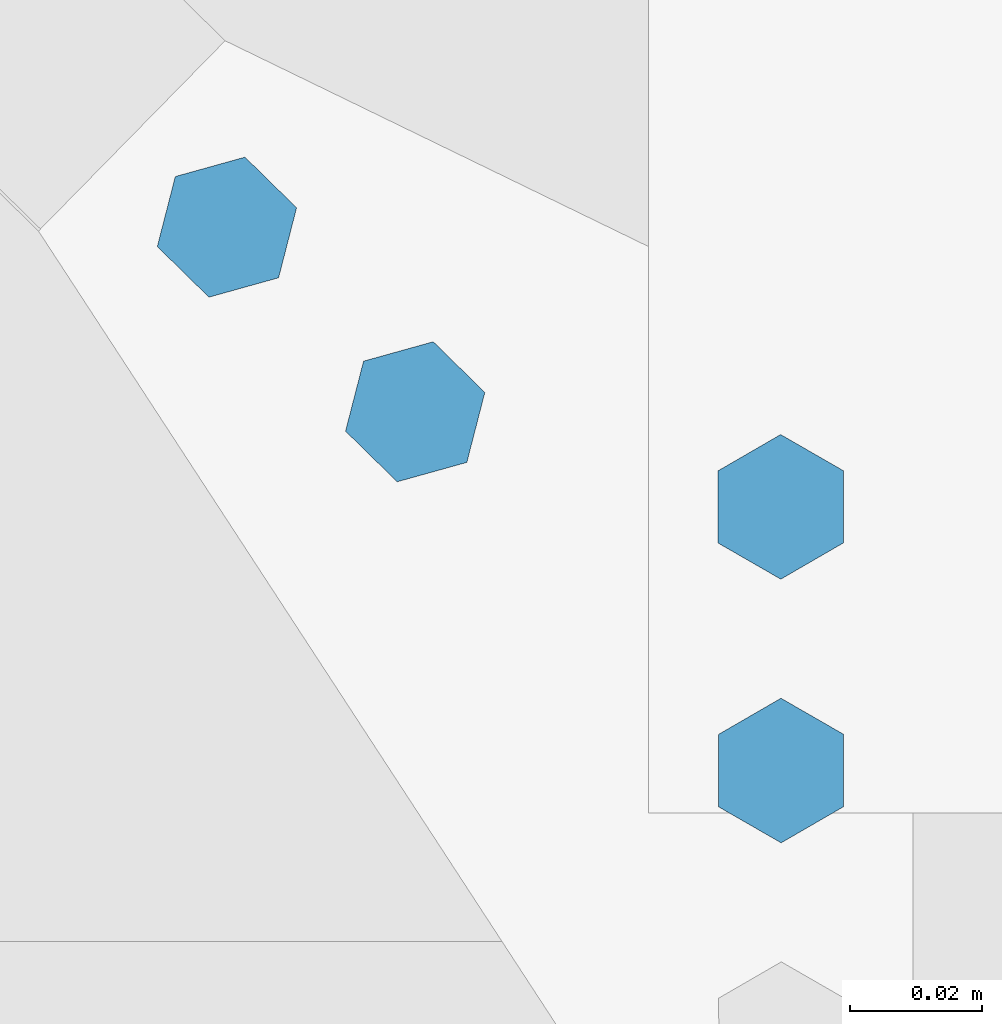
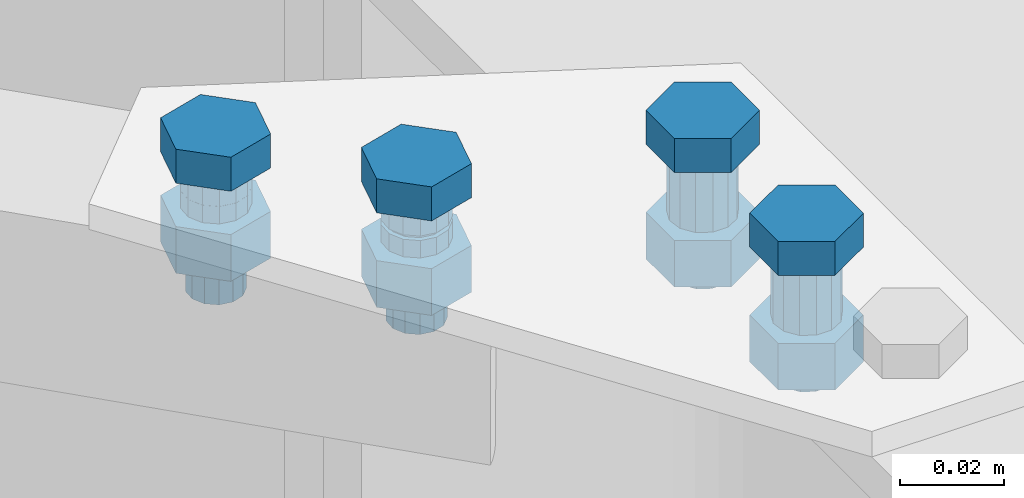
# One storey, part 17 of 18: 4 mechanical fasteners.
"""IFC2X3 building model written with IfcOpenShell, lengths in millimetres."""

from ifc_helpers import new_model, si_unit, frame, origin_with_axes, place, context, subcontext, project, spatial, faceted_brep, source, transform, mapped, type_object, element, save


model = new_model("IFC2X3")

# Units and contexts
model_context = context("Model", 3, precision=1e-05, world=origin_with_axes())
body_context = subcontext(model_context, "Body", "Model", "MODEL_VIEW")
ifc_project = project(units=[si_unit("LENGTHUNIT", "METRE", prefix="MILLI"), si_unit("AREAUNIT", "SQUARE_METRE"), si_unit("VOLUMEUNIT", "CUBIC_METRE"), si_unit("MASSUNIT", "GRAM", prefix="KILO"), si_unit("TIMEUNIT", "SECOND"), si_unit("PLANEANGLEUNIT", "RADIAN"), si_unit("SOLIDANGLEUNIT", "STERADIAN"), si_unit("THERMODYNAMICTEMPERATUREUNIT", "DEGREE_CELSIUS"), si_unit("LUMINOUSINTENSITYUNIT", "LUMEN")], contexts=[model_context])

# Site, building, storey
site_placement = place(None, origin_with_axes())
site = spatial("IfcSite", under=ifc_project, at=site_placement, Name="Undefined", CompositionType="ELEMENT")
building_placement = place(site_placement, origin_with_axes())
building = spatial("IfcBuilding", under=site, at=building_placement, Name="Undefined", CompositionType="ELEMENT")
storey_placement = place(building_placement, origin_with_axes())
storey = spatial("IfcBuildingStorey", under=building, at=storey_placement, Name="Undefined", CompositionType="ELEMENT", Elevation=0.0)

# Mechanical fasteners
mechanical_fastener_type = type_object("IfcMechanicalFastenerType", Name="Bolt assembly")
shared_shape_1 = source(origin_with_axes(), body_context, "Body", "Brep", [
    faceted_brep([(10.96965511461, -14.0, 0.0), (5.484827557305, -14.0, 9.50000000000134), (-5.484827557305, -14.0, 9.50000000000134), (-10.96965511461, -14.0, 0.0), (-5.484827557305, -14.0, -9.50000000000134), (5.484827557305, -14.0, -9.50000000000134), (5.484827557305, -6.0, -9.50000000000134), (-5.484827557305, -6.0, -9.50000000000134), (-10.96965511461, -6.0, 0.0), (-5.484827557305, -6.0, 9.50000000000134), (5.484827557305, -6.0, 9.50000000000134), (10.96965511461, -6.0, 0.0), (6.0, -6.0, 0.0), (5.31273615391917, -6.0, 2.78833903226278), (3.40838848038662, -6.0, 4.93790319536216), (0.723220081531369, -6.0, 5.95625324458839), (-2.12762932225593, -6.0, 5.61009745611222), (-4.49106448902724, -6.0, 3.97873594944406), (-5.82565090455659, -6.0, 1.43589398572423), (-5.82565090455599, -6.0, -1.43589398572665), (-4.49106448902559, -6.0, -3.97873594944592), (-2.12762932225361, -6.0, -5.6100974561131), (0.723220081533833, -6.0, -5.95625324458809), (3.40838848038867, -6.0, -4.93790319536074), (3.40838848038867, 24.0, -4.93790319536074), (0.723220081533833, 24.0, -5.95625324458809), (-2.12762932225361, 24.0, -5.6100974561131), (-4.49106448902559, 24.0, -3.97873594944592), (-5.82565090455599, 24.0, -1.43589398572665), (-5.82565090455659, 24.0, 1.43589398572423), (-4.49106448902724, 24.0, 3.97873594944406), (-2.12762932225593, 24.0, 5.61009745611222), (0.723220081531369, 24.0, 5.95625324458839), (3.40838848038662, 24.0, 4.93790319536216), (5.31273615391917, 24.0, 2.78833903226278), (6.0, 24.0, 0.0), (10.96965511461, 5.26725495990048, 0.0), (5.484827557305, 5.26725495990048, 9.50000000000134), (-5.484827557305, 5.26725495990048, 9.50000000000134), (-10.96965511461, 5.26725495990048, 0.0), (-5.484827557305, 5.26725495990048, -9.50000000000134), (5.484827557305, 5.26725495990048, -9.50000000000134), (5.484827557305, 16.2672549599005, -9.50000000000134), (-5.484827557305, 16.2672549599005, -9.50000000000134), (-10.96965511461, 16.2672549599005, 0.0), (-5.484827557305, 16.2672549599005, 9.50000000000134), (5.484827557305, 16.2672549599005, 9.50000000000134), (10.96965511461, 16.2672549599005, 0.0)], [[[0, 1, 2, 3, 4, 5]], [[6, 7, 8, 9, 10, 11]], [[0, 11, 10, 1]], [[1, 10, 9, 2]], [[2, 9, 8, 3]], [[3, 8, 7, 4]], [[4, 7, 6, 5]], [[5, 6, 11, 0]], [[12, 13, 14, 15, 16, 17, 18, 19, 20, 21, 22, 23]], [[24, 25, 26, 27, 28, 29, 30, 31, 32, 33, 34, 35]], [[12, 35, 34, 13]], [[13, 34, 33, 14]], [[14, 33, 32, 15]], [[15, 32, 31, 16]], [[16, 31, 30, 17]], [[17, 30, 29, 18]], [[18, 29, 28, 19]], [[19, 28, 27, 20]], [[20, 27, 26, 21]], [[21, 26, 25, 22]], [[22, 25, 24, 23]], [[23, 24, 35, 12]], [[36, 37, 38, 39, 40, 41]], [[42, 43, 44, 45, 46, 47]], [[36, 47, 46, 37]], [[37, 46, 45, 38]], [[38, 45, 44, 39]], [[39, 44, 43, 40]], [[40, 43, 42, 41]], [[41, 42, 47, 36]]]),
    faceted_brep([(7.0, -5.9, 0.0), (6.19819217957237, -5.9, 3.25306220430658), (3.97645322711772, -5.9, 5.76088706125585), (0.843756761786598, -5.9, 6.94896211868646), (-2.48223420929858, -5.9, 6.54511369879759), (-5.23957523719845, -5.9, 4.64185860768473), (-6.79659272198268, -5.9, 1.67520965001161), (-6.79659272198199, -5.9, -1.67520965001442), (-5.23957523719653, -5.9, -4.6418586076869), (-2.48223420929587, -5.9, -6.54511369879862), (0.843756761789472, -5.9, -6.94896211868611), (3.97645322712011, -5.9, -5.7608870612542), (3.97645322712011, 0.100000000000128, -5.7608870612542), (0.843756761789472, 0.100000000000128, -6.94896211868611), (-2.48223420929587, 0.100000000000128, -6.54511369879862), (-5.23957523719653, 0.100000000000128, -4.6418586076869), (-6.79659272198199, 0.100000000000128, -1.67520965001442), (-6.79659272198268, 0.100000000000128, 1.67520965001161), (-5.23957523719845, 0.100000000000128, 4.64185860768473), (-2.48223420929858, 0.100000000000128, 6.54511369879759), (0.843756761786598, 0.100000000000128, 6.94896211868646), (3.97645322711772, 0.100000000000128, 5.76088706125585), (6.19819217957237, 0.100000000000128, 3.25306220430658), (7.0, 0.100000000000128, 0.0), (7.0, 1.16566551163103, 0.0), (6.19819217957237, 1.16566551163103, 3.25306220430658), (3.97645322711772, 1.16566551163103, 5.76088706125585), (0.843756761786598, 1.16566551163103, 6.94896211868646), (-2.48223420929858, 1.16566551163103, 6.54511369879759), (-5.23957523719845, 1.16566551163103, 4.64185860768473), (-6.79659272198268, 1.16566551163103, 1.67520965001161), (-6.79659272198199, 1.16566551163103, -1.67520965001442), (-5.23957523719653, 1.16566551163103, -4.6418586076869), (-2.48223420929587, 1.16566551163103, -6.54511369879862), (0.843756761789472, 1.16566551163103, -6.94896211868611), (3.97645322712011, 1.16566551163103, -5.7608870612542), (3.97645322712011, 5.26725495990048, -5.7608870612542), (0.843756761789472, 5.26725495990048, -6.94896211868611), (-2.48223420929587, 5.26725495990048, -6.54511369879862), (-5.23957523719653, 5.26725495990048, -4.6418586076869), (-6.79659272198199, 5.26725495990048, -1.67520965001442), (-6.79659272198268, 5.26725495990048, 1.67520965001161), (-5.23957523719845, 5.26725495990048, 4.64185860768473), (-2.48223420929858, 5.26725495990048, 6.54511369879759), (0.843756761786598, 5.26725495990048, 6.94896211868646), (3.97645322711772, 5.26725495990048, 5.76088706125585), (6.19819217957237, 5.26725495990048, 3.25306220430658), (7.0, 5.26725495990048, 0.0)], [[[0, 1, 2, 3, 4, 5, 6, 7, 8, 9, 10, 11]], [[12, 13, 14, 15, 16, 17, 18, 19, 20, 21, 22, 23]], [[0, 23, 22, 1]], [[1, 22, 21, 2]], [[2, 21, 20, 3]], [[3, 20, 19, 4]], [[4, 19, 18, 5]], [[5, 18, 17, 6]], [[6, 17, 16, 7]], [[7, 16, 15, 8]], [[8, 15, 14, 9]], [[9, 14, 13, 10]], [[10, 13, 12, 11]], [[11, 12, 23, 0]], [[24, 25, 26, 27, 28, 29, 30, 31, 32, 33, 34, 35]], [[36, 37, 38, 39, 40, 41, 42, 43, 44, 45, 46, 47]], [[24, 47, 46, 25]], [[25, 46, 45, 26]], [[26, 45, 44, 27]], [[27, 44, 43, 28]], [[28, 43, 42, 29]], [[29, 42, 41, 30]], [[30, 41, 40, 31]], [[31, 40, 39, 32]], [[32, 39, 38, 33]], [[33, 38, 37, 34]], [[34, 37, 36, 35]], [[35, 36, 47, 24]]]),
])
mechanical_fastener_1_placement = place(storey_placement, frame((-130.390885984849, 127.866080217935, 5513.99941189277), z_axis=(-0.700159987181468, -0.713985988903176, 6.16637484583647e-13), x_axis=(-0.713985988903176, 0.700159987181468, -5.45696821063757e-13)))
element("IfcMechanicalFastener", 1, at=mechanical_fastener_1_placement, inside=storey, type_object=mechanical_fastener_type, Name="Bolt assembly", NominalDiameter=12.0, NominalLength=30.0, context=body_context, shape_type="MappedRepresentation", body=[
    mapped(shared_shape_1, transform((0.0, 0.0, 0.0))),
])
shared_shape_2 = source(origin_with_axes(), body_context, "Body", "Brep", [
    faceted_brep([(10.96965511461, -14.0, 0.0), (5.484827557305, -14.0, 9.50000000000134), (-5.484827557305, -14.0, 9.50000000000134), (-10.96965511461, -14.0, 0.0), (-5.484827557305, -14.0, -9.50000000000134), (5.484827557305, -14.0, -9.50000000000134), (5.484827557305, -6.0, -9.50000000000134), (-5.484827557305, -6.0, -9.50000000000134), (-10.96965511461, -6.0, 0.0), (-5.484827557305, -6.0, 9.50000000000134), (5.484827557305, -6.0, 9.50000000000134), (10.96965511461, -6.0, 0.0), (6.0, -6.0, 0.0), (5.31273615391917, -6.0, 2.78833903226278), (3.40838848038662, -6.0, 4.93790319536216), (0.723220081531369, -6.0, 5.95625324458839), (-2.12762932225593, -6.0, 5.61009745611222), (-4.49106448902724, -6.0, 3.97873594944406), (-5.82565090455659, -6.0, 1.43589398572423), (-5.82565090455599, -6.0, -1.43589398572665), (-4.49106448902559, -6.0, -3.97873594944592), (-2.12762932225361, -6.0, -5.6100974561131), (0.723220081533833, -6.0, -5.95625324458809), (3.40838848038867, -6.0, -4.93790319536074), (3.40838848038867, 24.0, -4.93790319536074), (0.723220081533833, 24.0, -5.95625324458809), (-2.12762932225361, 24.0, -5.6100974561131), (-4.49106448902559, 24.0, -3.97873594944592), (-5.82565090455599, 24.0, -1.43589398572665), (-5.82565090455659, 24.0, 1.43589398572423), (-4.49106448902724, 24.0, 3.97873594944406), (-2.12762932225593, 24.0, 5.61009745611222), (0.723220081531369, 24.0, 5.95625324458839), (3.40838848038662, 24.0, 4.93790319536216), (5.31273615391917, 24.0, 2.78833903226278), (6.0, 24.0, 0.0), (10.96965511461, 4.23029866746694, 0.0), (5.484827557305, 4.23029866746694, 9.50000000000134), (-5.484827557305, 4.23029866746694, 9.50000000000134), (-10.96965511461, 4.23029866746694, 0.0), (-5.484827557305, 4.23029866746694, -9.50000000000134), (5.484827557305, 4.23029866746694, -9.50000000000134), (5.484827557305, 15.2302986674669, -9.50000000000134), (-5.484827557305, 15.2302986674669, -9.50000000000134), (-10.96965511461, 15.2302986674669, 0.0), (-5.484827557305, 15.2302986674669, 9.50000000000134), (5.484827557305, 15.2302986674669, 9.50000000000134), (10.96965511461, 15.2302986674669, 0.0)], [[[0, 1, 2, 3, 4, 5]], [[6, 7, 8, 9, 10, 11]], [[0, 11, 10, 1]], [[1, 10, 9, 2]], [[2, 9, 8, 3]], [[3, 8, 7, 4]], [[4, 7, 6, 5]], [[5, 6, 11, 0]], [[12, 13, 14, 15, 16, 17, 18, 19, 20, 21, 22, 23]], [[24, 25, 26, 27, 28, 29, 30, 31, 32, 33, 34, 35]], [[12, 35, 34, 13]], [[13, 34, 33, 14]], [[14, 33, 32, 15]], [[15, 32, 31, 16]], [[16, 31, 30, 17]], [[17, 30, 29, 18]], [[18, 29, 28, 19]], [[19, 28, 27, 20]], [[20, 27, 26, 21]], [[21, 26, 25, 22]], [[22, 25, 24, 23]], [[23, 24, 35, 12]], [[36, 37, 38, 39, 40, 41]], [[42, 43, 44, 45, 46, 47]], [[36, 47, 46, 37]], [[37, 46, 45, 38]], [[38, 45, 44, 39]], [[39, 44, 43, 40]], [[40, 43, 42, 41]], [[41, 42, 47, 36]]]),
    faceted_brep([(7.0, -5.9, 0.0), (6.19819217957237, -5.9, 3.25306220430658), (3.97645322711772, -5.9, 5.76088706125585), (0.843756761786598, -5.9, 6.94896211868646), (-2.48223420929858, -5.9, 6.54511369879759), (-5.23957523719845, -5.9, 4.64185860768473), (-6.79659272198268, -5.9, 1.67520965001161), (-6.79659272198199, -5.9, -1.67520965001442), (-5.23957523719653, -5.9, -4.6418586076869), (-2.48223420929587, -5.9, -6.54511369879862), (0.843756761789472, -5.9, -6.94896211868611), (3.97645322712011, -5.9, -5.7608870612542), (3.97645322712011, 0.100000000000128, -5.7608870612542), (0.843756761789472, 0.100000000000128, -6.94896211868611), (-2.48223420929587, 0.100000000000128, -6.54511369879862), (-5.23957523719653, 0.100000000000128, -4.6418586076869), (-6.79659272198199, 0.100000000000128, -1.67520965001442), (-6.79659272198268, 0.100000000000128, 1.67520965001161), (-5.23957523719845, 0.100000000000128, 4.64185860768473), (-2.48223420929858, 0.100000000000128, 6.54511369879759), (0.843756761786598, 0.100000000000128, 6.94896211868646), (3.97645322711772, 0.100000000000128, 5.76088706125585), (6.19819217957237, 0.100000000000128, 3.25306220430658), (7.0, 0.100000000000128, 0.0), (7.0, 0.128709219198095, 0.0), (6.19819217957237, 0.128709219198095, 3.25306220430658), (3.97645322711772, 0.128709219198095, 5.76088706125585), (0.843756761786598, 0.128709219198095, 6.94896211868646), (-2.48223420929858, 0.128709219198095, 6.54511369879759), (-5.23957523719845, 0.128709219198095, 4.64185860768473), (-6.79659272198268, 0.128709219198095, 1.67520965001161), (-6.79659272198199, 0.128709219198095, -1.67520965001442), (-5.23957523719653, 0.128709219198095, -4.6418586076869), (-2.48223420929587, 0.128709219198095, -6.54511369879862), (0.843756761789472, 0.128709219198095, -6.94896211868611), (3.97645322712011, 0.128709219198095, -5.7608870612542), (3.97645322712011, 4.23029866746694, -5.7608870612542), (0.843756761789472, 4.23029866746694, -6.94896211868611), (-2.48223420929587, 4.23029866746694, -6.54511369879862), (-5.23957523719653, 4.23029866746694, -4.6418586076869), (-6.79659272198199, 4.23029866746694, -1.67520965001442), (-6.79659272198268, 4.23029866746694, 1.67520965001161), (-5.23957523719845, 4.23029866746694, 4.64185860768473), (-2.48223420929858, 4.23029866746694, 6.54511369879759), (0.843756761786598, 4.23029866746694, 6.94896211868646), (3.97645322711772, 4.23029866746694, 5.76088706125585), (6.19819217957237, 4.23029866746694, 3.25306220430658), (7.0, 4.23029866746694, 0.0)], [[[0, 1, 2, 3, 4, 5, 6, 7, 8, 9, 10, 11]], [[12, 13, 14, 15, 16, 17, 18, 19, 20, 21, 22, 23]], [[0, 23, 22, 1]], [[1, 22, 21, 2]], [[2, 21, 20, 3]], [[3, 20, 19, 4]], [[4, 19, 18, 5]], [[5, 18, 17, 6]], [[6, 17, 16, 7]], [[7, 16, 15, 8]], [[8, 15, 14, 9]], [[9, 14, 13, 10]], [[10, 13, 12, 11]], [[11, 12, 23, 0]], [[24, 25, 26, 27, 28, 29, 30, 31, 32, 33, 34, 35]], [[36, 37, 38, 39, 40, 41, 42, 43, 44, 45, 46, 47]], [[24, 47, 46, 25]], [[25, 46, 45, 26]], [[26, 45, 44, 27]], [[27, 44, 43, 28]], [[28, 43, 42, 29]], [[29, 42, 41, 30]], [[30, 41, 40, 31]], [[31, 40, 39, 32]], [[32, 39, 38, 33]], [[33, 38, 37, 34]], [[34, 37, 36, 35]], [[35, 36, 47, 24]]]),
])
mechanical_fastener_2_placement = place(storey_placement, frame((-158.950325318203, 155.872479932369, 5513.99941189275), z_axis=(-0.700159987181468, -0.713985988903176, 6.16637484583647e-13), x_axis=(-0.713985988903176, 0.700159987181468, -5.45696821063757e-13)))
element("IfcMechanicalFastener", 2, at=mechanical_fastener_2_placement, inside=storey, type_object=mechanical_fastener_type, Name="Bolt assembly", NominalDiameter=12.0, NominalLength=30.0, context=body_context, shape_type="MappedRepresentation", body=[
    mapped(shared_shape_2, transform((0.0, 0.0, 0.0))),
])
shared_shape_3 = source(origin_with_axes(), body_context, "Body", "Brep", [
    faceted_brep([(10.96965511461, -14.0, 0.0), (5.484827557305, -14.0, 9.50000000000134), (-5.484827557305, -14.0, 9.50000000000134), (-10.96965511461, -14.0, 0.0), (-5.484827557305, -14.0, -9.50000000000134), (5.484827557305, -14.0, -9.50000000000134), (5.484827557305, -6.0, -9.50000000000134), (-5.484827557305, -6.0, -9.50000000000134), (-10.96965511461, -6.0, 0.0), (-5.484827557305, -6.0, 9.50000000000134), (5.484827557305, -6.0, 9.50000000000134), (10.96965511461, -6.0, 0.0), (6.0, -6.0, 0.0), (5.31273615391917, -6.0, 2.78833903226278), (3.40838848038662, -6.0, 4.93790319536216), (0.723220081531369, -6.0, 5.95625324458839), (-2.12762932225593, -6.0, 5.61009745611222), (-4.49106448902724, -6.0, 3.97873594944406), (-5.82565090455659, -6.0, 1.43589398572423), (-5.82565090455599, -6.0, -1.43589398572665), (-4.49106448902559, -6.0, -3.97873594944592), (-2.12762932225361, -6.0, -5.6100974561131), (0.723220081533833, -6.0, -5.95625324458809), (3.40838848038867, -6.0, -4.93790319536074), (3.40838848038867, 24.0, -4.93790319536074), (0.723220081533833, 24.0, -5.95625324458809), (-2.12762932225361, 24.0, -5.6100974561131), (-4.49106448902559, 24.0, -3.97873594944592), (-5.82565090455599, 24.0, -1.43589398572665), (-5.82565090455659, 24.0, 1.43589398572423), (-4.49106448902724, 24.0, 3.97873594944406), (-2.12762932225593, 24.0, 5.61009745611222), (0.723220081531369, 24.0, 5.95625324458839), (3.40838848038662, 24.0, 4.93790319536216), (5.31273615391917, 24.0, 2.78833903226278), (6.0, 24.0, 0.0), (10.96965511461, 9.99999999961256, 0.0), (5.484827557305, 9.99999999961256, 9.50000000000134), (-5.484827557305, 9.99999999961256, 9.50000000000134), (-10.96965511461, 9.99999999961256, 0.0), (-5.484827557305, 9.99999999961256, -9.50000000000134), (5.484827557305, 9.99999999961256, -9.50000000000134), (5.484827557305, 20.9999999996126, -9.50000000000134), (-5.484827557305, 20.9999999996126, -9.50000000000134), (-10.96965511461, 20.9999999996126, 0.0), (-5.484827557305, 20.9999999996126, 9.50000000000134), (5.484827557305, 20.9999999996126, 9.50000000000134), (10.96965511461, 20.9999999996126, 0.0)], [[[0, 1, 2, 3, 4, 5]], [[6, 7, 8, 9, 10, 11]], [[0, 11, 10, 1]], [[1, 10, 9, 2]], [[2, 9, 8, 3]], [[3, 8, 7, 4]], [[4, 7, 6, 5]], [[5, 6, 11, 0]], [[12, 13, 14, 15, 16, 17, 18, 19, 20, 21, 22, 23]], [[24, 25, 26, 27, 28, 29, 30, 31, 32, 33, 34, 35]], [[12, 35, 34, 13]], [[13, 34, 33, 14]], [[14, 33, 32, 15]], [[15, 32, 31, 16]], [[16, 31, 30, 17]], [[17, 30, 29, 18]], [[18, 29, 28, 19]], [[19, 28, 27, 20]], [[20, 27, 26, 21]], [[21, 26, 25, 22]], [[22, 25, 24, 23]], [[23, 24, 35, 12]], [[36, 37, 38, 39, 40, 41]], [[42, 43, 44, 45, 46, 47]], [[36, 47, 46, 37]], [[37, 46, 45, 38]], [[38, 45, 44, 39]], [[39, 44, 43, 40]], [[40, 43, 42, 41]], [[41, 42, 47, 36]]]),
    faceted_brep([(7.0, -5.9, 0.0), (6.19819217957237, -5.9, 3.25306220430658), (3.97645322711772, -5.9, 5.76088706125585), (0.843756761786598, -5.9, 6.94896211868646), (-2.48223420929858, -5.9, 6.54511369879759), (-5.23957523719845, -5.9, 4.64185860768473), (-6.79659272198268, -5.9, 1.67520965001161), (-6.79659272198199, -5.9, -1.67520965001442), (-5.23957523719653, -5.9, -4.6418586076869), (-2.48223420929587, -5.9, -6.54511369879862), (0.843756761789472, -5.9, -6.94896211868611), (3.97645322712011, -5.9, -5.7608870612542), (3.97645322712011, 0.100000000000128, -5.7608870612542), (0.843756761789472, 0.100000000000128, -6.94896211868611), (-2.48223420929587, 0.100000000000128, -6.54511369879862), (-5.23957523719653, 0.100000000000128, -4.6418586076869), (-6.79659272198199, 0.100000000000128, -1.67520965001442), (-6.79659272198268, 0.100000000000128, 1.67520965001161), (-5.23957523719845, 0.100000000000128, 4.64185860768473), (-2.48223420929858, 0.100000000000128, 6.54511369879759), (0.843756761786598, 0.100000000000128, 6.94896211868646), (3.97645322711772, 0.100000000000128, 5.76088706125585), (6.19819217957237, 0.100000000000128, 3.25306220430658), (7.0, 0.100000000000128, 0.0), (7.0, -0.100000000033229, 0.0), (6.19819217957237, -0.100000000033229, 3.25306220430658), (3.97645322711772, -0.100000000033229, 5.76088706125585), (0.843756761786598, -0.100000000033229, 6.94896211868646), (-2.48223420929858, -0.100000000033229, 6.54511369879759), (-5.23957523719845, -0.100000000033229, 4.64185860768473), (-6.79659272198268, -0.100000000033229, 1.67520965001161), (-6.79659272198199, -0.100000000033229, -1.67520965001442), (-5.23957523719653, -0.100000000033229, -4.6418586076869), (-2.48223420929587, -0.100000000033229, -6.54511369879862), (0.843756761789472, -0.100000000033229, -6.94896211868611), (3.97645322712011, -0.100000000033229, -5.7608870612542), (3.97645322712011, 9.99999999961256, -5.7608870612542), (0.843756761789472, 9.99999999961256, -6.94896211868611), (-2.48223420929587, 9.99999999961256, -6.54511369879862), (-5.23957523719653, 9.99999999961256, -4.6418586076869), (-6.79659272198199, 9.99999999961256, -1.67520965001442), (-6.79659272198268, 9.99999999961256, 1.67520965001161), (-5.23957523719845, 9.99999999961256, 4.64185860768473), (-2.48223420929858, 9.99999999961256, 6.54511369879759), (0.843756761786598, 9.99999999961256, 6.94896211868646), (3.97645322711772, 9.99999999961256, 5.76088706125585), (6.19819217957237, 9.99999999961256, 3.25306220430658), (7.0, 9.99999999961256, 0.0)], [[[0, 1, 2, 3, 4, 5, 6, 7, 8, 9, 10, 11]], [[12, 13, 14, 15, 16, 17, 18, 19, 20, 21, 22, 23]], [[0, 23, 22, 1]], [[1, 22, 21, 2]], [[2, 21, 20, 3]], [[3, 20, 19, 4]], [[4, 19, 18, 5]], [[5, 18, 17, 6]], [[6, 17, 16, 7]], [[7, 16, 15, 8]], [[8, 15, 14, 9]], [[9, 14, 13, 10]], [[10, 13, 12, 11]], [[11, 12, 23, 0]], [[24, 25, 26, 27, 28, 29, 30, 31, 32, 33, 34, 35]], [[36, 37, 38, 39, 40, 41, 42, 43, 44, 45, 46, 47]], [[24, 47, 46, 25]], [[25, 46, 45, 26]], [[26, 45, 44, 27]], [[27, 44, 43, 28]], [[28, 43, 42, 29]], [[29, 42, 41, 30]], [[30, 41, 40, 31]], [[31, 40, 39, 32]], [[32, 39, 38, 33]], [[33, 38, 37, 34]], [[34, 37, 36, 35]], [[35, 36, 47, 24]]]),
])
mechanical_fastener_3_placement = place(storey_placement, frame((-74.9397438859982, 113.438886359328, 5513.99941189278), z_axis=(-0.999999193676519, -0.00126990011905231, 4.27462549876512e-14), x_axis=(-0.00126990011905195, 0.999999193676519, -8.18545231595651e-13)))
element("IfcMechanicalFastener", 3, at=mechanical_fastener_3_placement, inside=storey, type_object=mechanical_fastener_type, Name="Bolt assembly", NominalDiameter=12.0, NominalLength=40.0, context=body_context, shape_type="MappedRepresentation", body=[
    mapped(shared_shape_3, transform((0.0, 0.0, 0.0))),
])
shared_shape_4 = source(origin_with_axes(), body_context, "Body", "Brep", [
    faceted_brep([(10.96965511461, -14.0, 0.0), (5.484827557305, -14.0, 9.50000000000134), (-5.484827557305, -14.0, 9.50000000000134), (-10.96965511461, -14.0, 0.0), (-5.484827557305, -14.0, -9.50000000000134), (5.484827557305, -14.0, -9.50000000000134), (5.484827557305, -6.0, -9.50000000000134), (-5.484827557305, -6.0, -9.50000000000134), (-10.96965511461, -6.0, 0.0), (-5.484827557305, -6.0, 9.50000000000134), (5.484827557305, -6.0, 9.50000000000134), (10.96965511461, -6.0, 0.0), (6.0, -6.0, 0.0), (5.31273615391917, -6.0, 2.78833903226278), (3.40838848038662, -6.0, 4.93790319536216), (0.723220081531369, -6.0, 5.95625324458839), (-2.12762932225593, -6.0, 5.61009745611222), (-4.49106448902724, -6.0, 3.97873594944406), (-5.82565090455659, -6.0, 1.43589398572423), (-5.82565090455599, -6.0, -1.43589398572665), (-4.49106448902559, -6.0, -3.97873594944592), (-2.12762932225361, -6.0, -5.6100974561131), (0.723220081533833, -6.0, -5.95625324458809), (3.40838848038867, -6.0, -4.93790319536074), (3.40838848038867, 24.0, -4.93790319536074), (0.723220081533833, 24.0, -5.95625324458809), (-2.12762932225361, 24.0, -5.6100974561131), (-4.49106448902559, 24.0, -3.97873594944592), (-5.82565090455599, 24.0, -1.43589398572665), (-5.82565090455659, 24.0, 1.43589398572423), (-4.49106448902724, 24.0, 3.97873594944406), (-2.12762932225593, 24.0, 5.61009745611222), (0.723220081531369, 24.0, 5.95625324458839), (3.40838848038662, 24.0, 4.93790319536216), (5.31273615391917, 24.0, 2.78833903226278), (6.0, 24.0, 0.0), (10.96965511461, 9.99999999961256, 0.0), (5.484827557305, 9.99999999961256, 9.50000000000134), (-5.484827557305, 9.99999999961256, 9.50000000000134), (-10.96965511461, 9.99999999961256, 0.0), (-5.484827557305, 9.99999999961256, -9.50000000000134), (5.484827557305, 9.99999999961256, -9.50000000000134), (5.484827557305, 20.9999999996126, -9.50000000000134), (-5.484827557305, 20.9999999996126, -9.50000000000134), (-10.96965511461, 20.9999999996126, 0.0), (-5.484827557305, 20.9999999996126, 9.50000000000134), (5.484827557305, 20.9999999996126, 9.50000000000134), (10.96965511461, 20.9999999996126, 0.0)], [[[0, 1, 2, 3, 4, 5]], [[6, 7, 8, 9, 10, 11]], [[0, 11, 10, 1]], [[1, 10, 9, 2]], [[2, 9, 8, 3]], [[3, 8, 7, 4]], [[4, 7, 6, 5]], [[5, 6, 11, 0]], [[12, 13, 14, 15, 16, 17, 18, 19, 20, 21, 22, 23]], [[24, 25, 26, 27, 28, 29, 30, 31, 32, 33, 34, 35]], [[12, 35, 34, 13]], [[13, 34, 33, 14]], [[14, 33, 32, 15]], [[15, 32, 31, 16]], [[16, 31, 30, 17]], [[17, 30, 29, 18]], [[18, 29, 28, 19]], [[19, 28, 27, 20]], [[20, 27, 26, 21]], [[21, 26, 25, 22]], [[22, 25, 24, 23]], [[23, 24, 35, 12]], [[36, 37, 38, 39, 40, 41]], [[42, 43, 44, 45, 46, 47]], [[36, 47, 46, 37]], [[37, 46, 45, 38]], [[38, 45, 44, 39]], [[39, 44, 43, 40]], [[40, 43, 42, 41]], [[41, 42, 47, 36]]]),
    faceted_brep([(7.0, -0.100000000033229, 0.0), (6.19819217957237, -0.100000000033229, 3.25306220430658), (3.97645322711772, -0.100000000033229, 5.76088706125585), (0.843756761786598, -0.100000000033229, 6.94896211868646), (-2.48223420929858, -0.100000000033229, 6.54511369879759), (-5.23957523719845, -0.100000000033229, 4.64185860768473), (-6.79659272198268, -0.100000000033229, 1.67520965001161), (-6.79659272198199, -0.100000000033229, -1.67520965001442), (-5.23957523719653, -0.100000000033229, -4.6418586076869), (-2.48223420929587, -0.100000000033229, -6.54511369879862), (0.843756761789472, -0.100000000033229, -6.94896211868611), (3.97645322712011, -0.100000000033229, -5.7608870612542), (3.97645322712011, 9.99999999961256, -5.7608870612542), (0.843756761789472, 9.99999999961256, -6.94896211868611), (-2.48223420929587, 9.99999999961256, -6.54511369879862), (-5.23957523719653, 9.99999999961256, -4.6418586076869), (-6.79659272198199, 9.99999999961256, -1.67520965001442), (-6.79659272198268, 9.99999999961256, 1.67520965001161), (-5.23957523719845, 9.99999999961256, 4.64185860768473), (-2.48223420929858, 9.99999999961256, 6.54511369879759), (0.843756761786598, 9.99999999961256, 6.94896211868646), (3.97645322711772, 9.99999999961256, 5.76088706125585), (6.19819217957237, 9.99999999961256, 3.25306220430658), (7.0, 9.99999999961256, 0.0), (7.0, -5.9, 0.0), (6.19819217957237, -5.9, 3.25306220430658), (3.97645322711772, -5.9, 5.76088706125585), (0.843756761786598, -5.9, 6.94896211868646), (-2.48223420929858, -5.9, 6.54511369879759), (-5.23957523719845, -5.9, 4.64185860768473), (-6.79659272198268, -5.9, 1.67520965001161), (-6.79659272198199, -5.9, -1.67520965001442), (-5.23957523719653, -5.9, -4.6418586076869), (-2.48223420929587, -5.9, -6.54511369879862), (0.843756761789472, -5.9, -6.94896211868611), (3.97645322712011, -5.9, -5.7608870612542), (3.97645322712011, 0.100000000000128, -5.7608870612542), (0.843756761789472, 0.100000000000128, -6.94896211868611), (-2.48223420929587, 0.100000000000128, -6.54511369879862), (-5.23957523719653, 0.100000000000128, -4.6418586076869), (-6.79659272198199, 0.100000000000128, -1.67520965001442), (-6.79659272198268, 0.100000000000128, 1.67520965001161), (-5.23957523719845, 0.100000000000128, 4.64185860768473), (-2.48223420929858, 0.100000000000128, 6.54511369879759), (0.843756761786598, 0.100000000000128, 6.94896211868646), (3.97645322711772, 0.100000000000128, 5.76088706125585), (6.19819217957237, 0.100000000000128, 3.25306220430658), (7.0, 0.100000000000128, 0.0)], [[[0, 1, 2, 3, 4, 5, 6, 7, 8, 9, 10, 11]], [[12, 13, 14, 15, 16, 17, 18, 19, 20, 21, 22, 23]], [[0, 23, 22, 1]], [[1, 22, 21, 2]], [[2, 21, 20, 3]], [[3, 20, 19, 4]], [[4, 19, 18, 5]], [[5, 18, 17, 6]], [[6, 17, 16, 7]], [[7, 16, 15, 8]], [[8, 15, 14, 9]], [[9, 14, 13, 10]], [[10, 13, 12, 11]], [[11, 12, 23, 0]], [[24, 25, 26, 27, 28, 29, 30, 31, 32, 33, 34, 35]], [[36, 37, 38, 39, 40, 41, 42, 43, 44, 45, 46, 47]], [[24, 47, 46, 25]], [[25, 46, 45, 26]], [[26, 45, 44, 27]], [[27, 44, 43, 28]], [[28, 43, 42, 29]], [[29, 42, 41, 30]], [[30, 41, 40, 31]], [[31, 40, 39, 32]], [[32, 39, 38, 33]], [[33, 38, 37, 34]], [[34, 37, 36, 35]], [[35, 36, 47, 24]]]),
])
mechanical_fastener_4_placement = place(storey_placement, frame((-74.888947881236, 73.4389186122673, 5513.99941189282), z_axis=(-0.999999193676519, -0.00126990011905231, 4.27462549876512e-14), x_axis=(-0.00126990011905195, 0.999999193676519, -8.18545231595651e-13)))
element("IfcMechanicalFastener", 4, at=mechanical_fastener_4_placement, inside=storey, type_object=mechanical_fastener_type, Name="Bolt assembly", NominalDiameter=12.0, NominalLength=40.0, context=body_context, shape_type="MappedRepresentation", body=[
    mapped(shared_shape_4, transform((0.0, 0.0, 0.0))),
])

save(model, "model.ifc")
